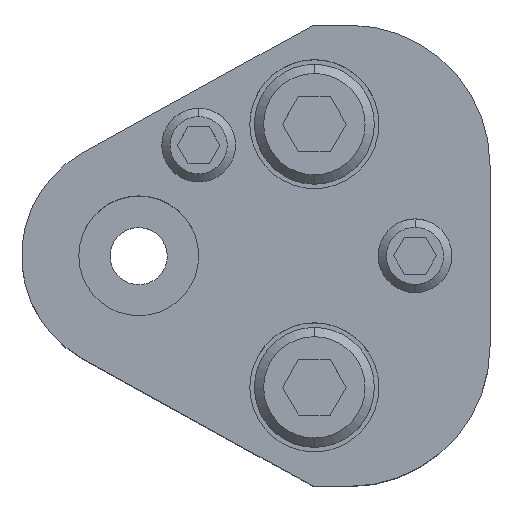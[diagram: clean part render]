
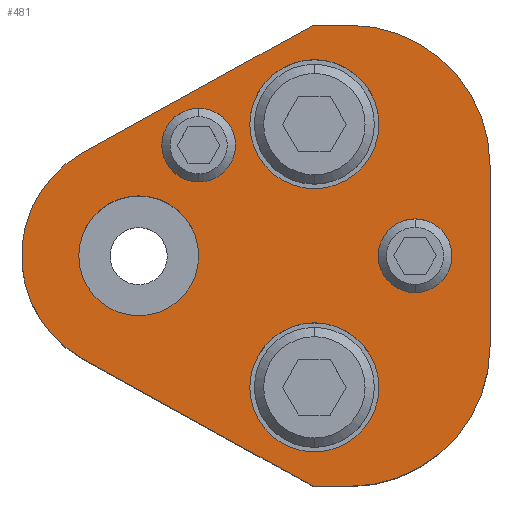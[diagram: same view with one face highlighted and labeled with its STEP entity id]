
A CAD part, top view. The second image highlights one B-rep face of the part: STEP entity #481.
In plain terms, the highlighted planar face has unit normal (0, 0, 1).
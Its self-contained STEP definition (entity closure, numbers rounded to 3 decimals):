
#213=FACE_BOUND('',#843,.T.);
#214=FACE_BOUND('',#844,.T.);
#215=FACE_BOUND('',#845,.T.);
#216=FACE_BOUND('',#846,.T.);
#217=FACE_BOUND('',#847,.T.);
#218=FACE_BOUND('',#848,.T.);
#303=CIRCLE('',#2712,15.2);
#305=CIRCLE('',#2716,15.2);
#308=CIRCLE('',#2722,12.7);
#309=CIRCLE('',#2724,4.);
#311=CIRCLE('',#2727,4.);
#313=CIRCLE('',#2730,4.);
#315=CIRCLE('',#2733,4.);
#325=CIRCLE('',#2748,7.);
#326=CIRCLE('',#2749,7.);
#327=CIRCLE('',#2750,7.);
#328=CIRCLE('',#2751,7.);
#329=CIRCLE('',#2752,6.5);
#330=CIRCLE('',#2753,6.5);
#481=ADVANCED_FACE('',(#213,#214,#215,#216,#217,#218),#595,.T.);
#595=PLANE('',#2754);
#843=EDGE_LOOP('',(#1257,#1258,#1259,#1260,#1261,#1262,#1263,#1264));
#844=EDGE_LOOP('',(#1265,#1266));
#845=EDGE_LOOP('',(#1267,#1268));
#846=EDGE_LOOP('',(#1269,#1270));
#847=EDGE_LOOP('',(#1271,#1272));
#848=EDGE_LOOP('',(#1273,#1274));
#1257=ORIENTED_EDGE('',*,*,#1996,.T.);
#1258=ORIENTED_EDGE('',*,*,#2000,.T.);
#1259=ORIENTED_EDGE('',*,*,#2003,.T.);
#1260=ORIENTED_EDGE('',*,*,#2006,.T.);
#1261=ORIENTED_EDGE('',*,*,#2009,.T.);
#1262=ORIENTED_EDGE('',*,*,#2012,.T.);
#1263=ORIENTED_EDGE('',*,*,#2015,.T.);
#1264=ORIENTED_EDGE('',*,*,#2018,.T.);
#1265=ORIENTED_EDGE('',*,*,#2043,.F.);
#1266=ORIENTED_EDGE('',*,*,#2044,.F.);
#1267=ORIENTED_EDGE('',*,*,#2045,.F.);
#1268=ORIENTED_EDGE('',*,*,#2046,.F.);
#1269=ORIENTED_EDGE('',*,*,#2029,.F.);
#1270=ORIENTED_EDGE('',*,*,#2025,.F.);
#1271=ORIENTED_EDGE('',*,*,#2023,.F.);
#1272=ORIENTED_EDGE('',*,*,#2019,.F.);
#1273=ORIENTED_EDGE('',*,*,#2047,.T.);
#1274=ORIENTED_EDGE('',*,*,#2048,.T.);
#1728=VERTEX_POINT('',#4024);
#1729=VERTEX_POINT('',#4026);
#1732=VERTEX_POINT('',#4033);
#1734=VERTEX_POINT('',#4039);
#1736=VERTEX_POINT('',#4045);
#1738=VERTEX_POINT('',#4051);
#1740=VERTEX_POINT('',#4057);
#1742=VERTEX_POINT('',#4063);
#1743=VERTEX_POINT('',#4071);
#1744=VERTEX_POINT('',#4072);
#1747=VERTEX_POINT('',#4083);
#1748=VERTEX_POINT('',#4084);
#1759=VERTEX_POINT('',#4119);
#1760=VERTEX_POINT('',#4120);
#1761=VERTEX_POINT('',#4123);
#1762=VERTEX_POINT('',#4124);
#1763=VERTEX_POINT('',#4127);
#1764=VERTEX_POINT('',#4128);
#1996=EDGE_CURVE('',#1729,#1728,#2294,.T.);
#2000=EDGE_CURVE('',#1728,#1732,#2298,.T.);
#2003=EDGE_CURVE('',#1732,#1734,#303,.T.);
#2006=EDGE_CURVE('',#1734,#1736,#2302,.T.);
#2009=EDGE_CURVE('',#1736,#1738,#305,.T.);
#2012=EDGE_CURVE('',#1738,#1740,#2306,.T.);
#2015=EDGE_CURVE('',#1740,#1742,#2309,.T.);
#2018=EDGE_CURVE('',#1742,#1729,#308,.T.);
#2019=EDGE_CURVE('',#1743,#1744,#309,.T.);
#2023=EDGE_CURVE('',#1744,#1743,#311,.T.);
#2025=EDGE_CURVE('',#1747,#1748,#313,.T.);
#2029=EDGE_CURVE('',#1748,#1747,#315,.T.);
#2043=EDGE_CURVE('',#1759,#1760,#325,.T.);
#2044=EDGE_CURVE('',#1760,#1759,#326,.T.);
#2045=EDGE_CURVE('',#1761,#1762,#327,.T.);
#2046=EDGE_CURVE('',#1762,#1761,#328,.T.);
#2047=EDGE_CURVE('',#1763,#1764,#329,.T.);
#2048=EDGE_CURVE('',#1764,#1763,#330,.T.);
#2294=LINE('',#4025,#2486);
#2298=LINE('',#4034,#2490);
#2302=LINE('',#4046,#2494);
#2306=LINE('',#4058,#2498);
#2309=LINE('',#4064,#2501);
#2486=VECTOR('',#3186,1.);
#2490=VECTOR('',#3192,1.);
#2494=VECTOR('',#3204,1.);
#2498=VECTOR('',#3216,1.);
#2501=VECTOR('',#3221,1.);
#2712=AXIS2_PLACEMENT_3D('',#4040,#3197,#3198);
#2716=AXIS2_PLACEMENT_3D('',#4052,#3209,#3210);
#2722=AXIS2_PLACEMENT_3D('',#4068,#3227,#3228);
#2724=AXIS2_PLACEMENT_3D('',#4070,#3231,#3232);
#2727=AXIS2_PLACEMENT_3D('',#4079,#3239,#3240);
#2730=AXIS2_PLACEMENT_3D('',#4082,#3245,#3246);
#2733=AXIS2_PLACEMENT_3D('',#4091,#3253,#3254);
#2748=AXIS2_PLACEMENT_3D('',#4118,#3287,#3288);
#2749=AXIS2_PLACEMENT_3D('',#4121,#3289,#3290);
#2750=AXIS2_PLACEMENT_3D('',#4122,#3291,#3292);
#2751=AXIS2_PLACEMENT_3D('',#4125,#3293,#3294);
#2752=AXIS2_PLACEMENT_3D('',#4126,#3295,#3296);
#2753=AXIS2_PLACEMENT_3D('',#4129,#3297,#3298);
#2754=AXIS2_PLACEMENT_3D('',#4130,#3299,#3300);
#3186=DIRECTION('',(0.875,-0.485,0.));
#3192=DIRECTION('',(1.,0.,0.));
#3197=DIRECTION('',(0.,0.,1.));
#3198=DIRECTION('',(-0.707,0.707,0.));
#3204=DIRECTION('',(0.,1.,0.));
#3209=DIRECTION('',(0.,0.,1.));
#3210=DIRECTION('',(-0.707,-0.707,0.));
#3216=DIRECTION('',(-1.,0.,0.));
#3221=DIRECTION('',(-0.875,-0.485,0.));
#3227=DIRECTION('',(0.,0.,1.));
#3228=DIRECTION('',(1.,0.,0.));
#3231=DIRECTION('',(0.,0.,1.));
#3232=DIRECTION('',(-1.,0.,0.));
#3239=DIRECTION('',(0.,0.,1.));
#3240=DIRECTION('',(1.,0.,0.));
#3245=DIRECTION('',(0.,0.,1.));
#3246=DIRECTION('',(-1.,0.,0.));
#3253=DIRECTION('',(0.,0.,1.));
#3254=DIRECTION('',(1.,0.,0.));
#3287=DIRECTION('',(0.,0.,1.));
#3288=DIRECTION('',(1.,0.,0.));
#3289=DIRECTION('',(0.,0.,1.));
#3290=DIRECTION('',(-1.,0.,0.));
#3291=DIRECTION('',(0.,0.,1.));
#3292=DIRECTION('',(1.,0.,0.));
#3293=DIRECTION('',(0.,0.,1.));
#3294=DIRECTION('',(-1.,0.,0.));
#3295=DIRECTION('',(0.,0.,-1.));
#3296=DIRECTION('',(-1.,0.,0.));
#3297=DIRECTION('',(0.,0.,-1.));
#3298=DIRECTION('',(1.,0.,0.));
#3299=DIRECTION('',(0.,0.,1.));
#3300=DIRECTION('',(-0.875,0.485,0.));
#4024=CARTESIAN_POINT('',(18.905,-25.,30.));
#4025=CARTESIAN_POINT('',(18.905,-25.,30.));
#4026=CARTESIAN_POINT('',(-6.157,-11.108,30.));
#4033=CARTESIAN_POINT('',(22.9,-25.,30.));
#4034=CARTESIAN_POINT('',(18.905,-25.,30.));
#4039=CARTESIAN_POINT('',(38.1,-9.8,30.));
#4040=CARTESIAN_POINT('',(22.9,-9.8,30.));
#4045=CARTESIAN_POINT('',(38.1,9.8,30.));
#4046=CARTESIAN_POINT('',(38.1,9.8,30.));
#4051=CARTESIAN_POINT('',(22.9,25.,30.));
#4052=CARTESIAN_POINT('',(22.9,9.8,30.));
#4057=CARTESIAN_POINT('',(18.905,25.,30.));
#4058=CARTESIAN_POINT('',(18.905,25.,30.));
#4063=CARTESIAN_POINT('',(-6.157,11.108,30.));
#4064=CARTESIAN_POINT('',(18.905,25.,30.));
#4068=CARTESIAN_POINT('',(0.,0.,30.));
#4070=CARTESIAN_POINT('',(6.5,12.,30.));
#4071=CARTESIAN_POINT('',(6.5,8.,30.));
#4072=CARTESIAN_POINT('',(6.5,16.,30.));
#4079=CARTESIAN_POINT('',(6.5,12.,30.));
#4082=CARTESIAN_POINT('',(29.97,0.,30.));
#4083=CARTESIAN_POINT('',(29.97,-4.,30.));
#4084=CARTESIAN_POINT('',(29.97,4.,30.));
#4091=CARTESIAN_POINT('',(29.97,0.,30.));
#4118=CARTESIAN_POINT('',(19.05,14.27,30.));
#4119=CARTESIAN_POINT('',(19.05,21.27,30.));
#4120=CARTESIAN_POINT('',(19.05,7.27,30.));
#4121=CARTESIAN_POINT('',(19.05,14.27,30.));
#4122=CARTESIAN_POINT('',(19.05,-14.27,30.));
#4123=CARTESIAN_POINT('',(19.05,-7.27,30.));
#4124=CARTESIAN_POINT('',(19.05,-21.27,30.));
#4125=CARTESIAN_POINT('',(19.05,-14.27,30.));
#4126=CARTESIAN_POINT('',(0.,0.,30.));
#4127=CARTESIAN_POINT('',(0.,6.5,30.));
#4128=CARTESIAN_POINT('',(0.,-6.5,30.));
#4129=CARTESIAN_POINT('',(0.,0.,30.));
#4130=CARTESIAN_POINT('',(-6.157,-11.108,30.));
